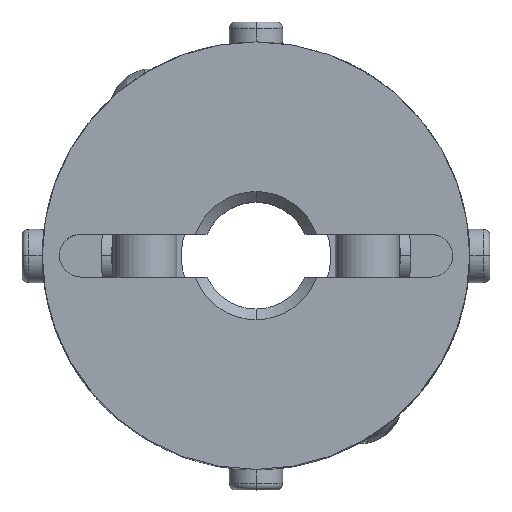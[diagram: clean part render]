
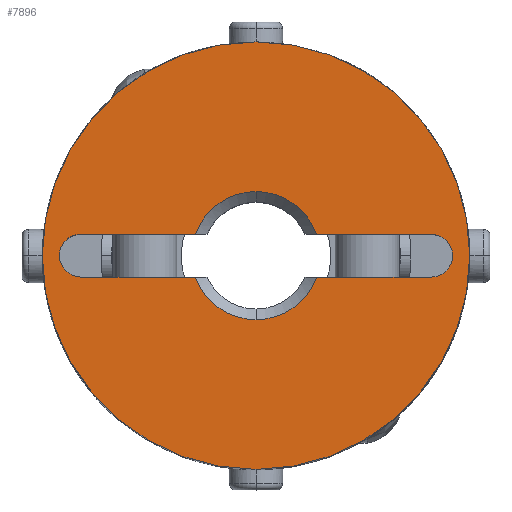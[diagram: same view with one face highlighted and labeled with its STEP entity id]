
A CAD part, top view. The second image highlights one B-rep face of the part: STEP entity #7896.
In plain terms, the highlighted planar face has unit normal (0, 0, 1).
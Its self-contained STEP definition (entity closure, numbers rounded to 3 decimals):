
#633=CARTESIAN_POINT('',(-8.907,-0.707,10.0));
#634=VERTEX_POINT('',#633);
#650=CARTESIAN_POINT('',(-8.2,1.,10.0));
#651=VERTEX_POINT('',#650);
#658=CARTESIAN_POINT('',(-8.2,0.,10.0));
#659=DIRECTION('',(0.0,0.0,1.0));
#660=DIRECTION('',(-0.707,0.707,0.0));
#661=AXIS2_PLACEMENT_3D('',#658,#659,#660);
#662=CIRCLE('',#661,1.);
#663=EDGE_CURVE('',#651,#634,#662,.T.);
#675=CARTESIAN_POINT('',(8.907,0.707,10.0));
#676=VERTEX_POINT('',#675);
#692=CARTESIAN_POINT('',(8.2,-1.,10.0));
#693=VERTEX_POINT('',#692);
#700=CARTESIAN_POINT('',(8.2,0.,10.0));
#701=DIRECTION('',(0.0,0.0,1.0));
#702=DIRECTION('',(0.707,-0.707,0.0));
#703=AXIS2_PLACEMENT_3D('',#700,#701,#702);
#704=CIRCLE('',#703,1.0);
#705=EDGE_CURVE('',#693,#676,#704,.T.);
#715=CARTESIAN_POINT('',(0.,-3.0,10.0));
#716=VERTEX_POINT('',#715);
#724=CARTESIAN_POINT('',(-2.828,-1.,10.0));
#725=VERTEX_POINT('',#724);
#739=CARTESIAN_POINT('',(0.,0.,10.0));
#740=DIRECTION('',(0.0,0.0,1.0));
#741=DIRECTION('',(0.0,-1.0,0.0));
#742=AXIS2_PLACEMENT_3D('',#739,#740,#741);
#743=CIRCLE('',#742,3.0);
#744=EDGE_CURVE('',#725,#716,#743,.T.);
#756=CARTESIAN_POINT('',(0.,3.0,10.0));
#757=VERTEX_POINT('',#756);
#773=CARTESIAN_POINT('',(2.828,1.,10.0));
#774=VERTEX_POINT('',#773);
#788=CARTESIAN_POINT('',(0.,0.,10.0));
#789=DIRECTION('',(0.0,0.0,1.0));
#790=DIRECTION('',(0.0,1.0,0.0));
#791=AXIS2_PLACEMENT_3D('',#788,#789,#790);
#792=CIRCLE('',#791,3.0);
#793=EDGE_CURVE('',#774,#757,#792,.T.);
#1385=CARTESIAN_POINT('',(0.,-10.0,10.0));
#1386=VERTEX_POINT('',#1385);
#1393=CARTESIAN_POINT('',(0.,10.0,10.0));
#1394=VERTEX_POINT('',#1393);
#1395=CARTESIAN_POINT('',(0.0,0.0,10.0));
#1396=DIRECTION('',(0.0,0.0,-1.0));
#1397=DIRECTION('',(0.0,1.0,0.0));
#1398=AXIS2_PLACEMENT_3D('',#1395,#1396,#1397);
#1399=CIRCLE('',#1398,10.0);
#1400=EDGE_CURVE('',#1386,#1394,#1399,.T.);
#7203=CARTESIAN_POINT('',(0.0,0.0,10.0));
#7204=DIRECTION('',(0.0,0.0,-1.0));
#7205=DIRECTION('',(0.0,1.0,0.0));
#7206=AXIS2_PLACEMENT_3D('',#7203,#7204,#7205);
#7207=CIRCLE('',#7206,10.0);
#7208=EDGE_CURVE('',#1394,#1386,#7207,.T.);
#7692=CARTESIAN_POINT('',(2.828,-1.,10.0));
#7693=VERTEX_POINT('',#7692);
#7707=CARTESIAN_POINT('',(8.2,-1.,10.0));
#7708=DIRECTION('',(-1.0,0.0,0.0));
#7709=VECTOR('',#7708,5.372);
#7710=LINE('',#7707,#7709);
#7711=EDGE_CURVE('',#693,#7693,#7710,.T.);
#7770=CARTESIAN_POINT('',(8.2,1.,10.0));
#7771=VERTEX_POINT('',#7770);
#7778=CARTESIAN_POINT('',(2.828,1.,10.0));
#7779=DIRECTION('',(1.0,0.0,0.0));
#7780=VECTOR('',#7779,5.372);
#7781=LINE('',#7778,#7780);
#7782=EDGE_CURVE('',#774,#7771,#7781,.T.);
#7799=CARTESIAN_POINT('',(-2.828,1.,10.0));
#7800=VERTEX_POINT('',#7799);
#7801=CARTESIAN_POINT('',(0.,0.,10.0));
#7802=DIRECTION('',(0.0,0.0,1.0));
#7803=DIRECTION('',(0.0,1.0,0.0));
#7804=AXIS2_PLACEMENT_3D('',#7801,#7802,#7803);
#7805=CIRCLE('',#7804,3.0);
#7806=EDGE_CURVE('',#757,#7800,#7805,.T.);
#7833=CARTESIAN_POINT('',(-8.2,1.,10.0));
#7834=DIRECTION('',(1.0,0.0,0.0));
#7835=VECTOR('',#7834,5.372);
#7836=LINE('',#7833,#7835);
#7837=EDGE_CURVE('',#651,#7800,#7836,.T.);
#7848=CARTESIAN_POINT('',(0.,0.909,10.0));
#7849=DIRECTION('',(0.0,0.0,1.0));
#7850=DIRECTION('',(0.0,1.0,0.0));
#7851=AXIS2_PLACEMENT_3D('',#7848,#7849,#7850);
#7852=PLANE('',#7851);
#7853=ORIENTED_EDGE('',*,*,#7208,.F.);
#7854=ORIENTED_EDGE('',*,*,#1400,.F.);
#7855=EDGE_LOOP('',(#7853,#7854));
#7856=FACE_OUTER_BOUND('',#7855,.T.);
#7857=ORIENTED_EDGE('',*,*,#793,.F.);
#7858=ORIENTED_EDGE('',*,*,#7782,.T.);
#7859=CARTESIAN_POINT('',(8.2,0.,10.0));
#7860=DIRECTION('',(0.0,0.0,1.0));
#7861=DIRECTION('',(0.707,-0.707,0.0));
#7862=AXIS2_PLACEMENT_3D('',#7859,#7860,#7861);
#7863=CIRCLE('',#7862,1.0);
#7864=EDGE_CURVE('',#676,#7771,#7863,.T.);
#7865=ORIENTED_EDGE('',*,*,#7864,.F.);
#7866=ORIENTED_EDGE('',*,*,#705,.F.);
#7867=ORIENTED_EDGE('',*,*,#7711,.T.);
#7868=CARTESIAN_POINT('',(0.,0.,10.0));
#7869=DIRECTION('',(0.0,0.0,1.0));
#7870=DIRECTION('',(0.0,-1.0,0.0));
#7871=AXIS2_PLACEMENT_3D('',#7868,#7869,#7870);
#7872=CIRCLE('',#7871,3.0);
#7873=EDGE_CURVE('',#716,#7693,#7872,.T.);
#7874=ORIENTED_EDGE('',*,*,#7873,.F.);
#7875=ORIENTED_EDGE('',*,*,#744,.F.);
#7876=CARTESIAN_POINT('',(-8.2,-1.,10.0));
#7877=VERTEX_POINT('',#7876);
#7878=CARTESIAN_POINT('',(-2.828,-1.,10.0));
#7879=DIRECTION('',(-1.0,0.0,0.0));
#7880=VECTOR('',#7879,5.372);
#7881=LINE('',#7878,#7880);
#7882=EDGE_CURVE('',#725,#7877,#7881,.T.);
#7883=ORIENTED_EDGE('',*,*,#7882,.T.);
#7884=CARTESIAN_POINT('',(-8.2,0.,10.0));
#7885=DIRECTION('',(0.0,0.0,1.0));
#7886=DIRECTION('',(-0.707,0.707,0.0));
#7887=AXIS2_PLACEMENT_3D('',#7884,#7885,#7886);
#7888=CIRCLE('',#7887,1.);
#7889=EDGE_CURVE('',#634,#7877,#7888,.T.);
#7890=ORIENTED_EDGE('',*,*,#7889,.F.);
#7891=ORIENTED_EDGE('',*,*,#663,.F.);
#7892=ORIENTED_EDGE('',*,*,#7837,.T.);
#7893=ORIENTED_EDGE('',*,*,#7806,.F.);
#7894=EDGE_LOOP('',(#7857,#7858,#7865,#7866,#7867,#7874,#7875,#7883,#7890,#7891,#7892,#7893));
#7895=FACE_BOUND('',#7894,.T.);
#7896=ADVANCED_FACE('',(#7856,#7895),#7852,.T.);
